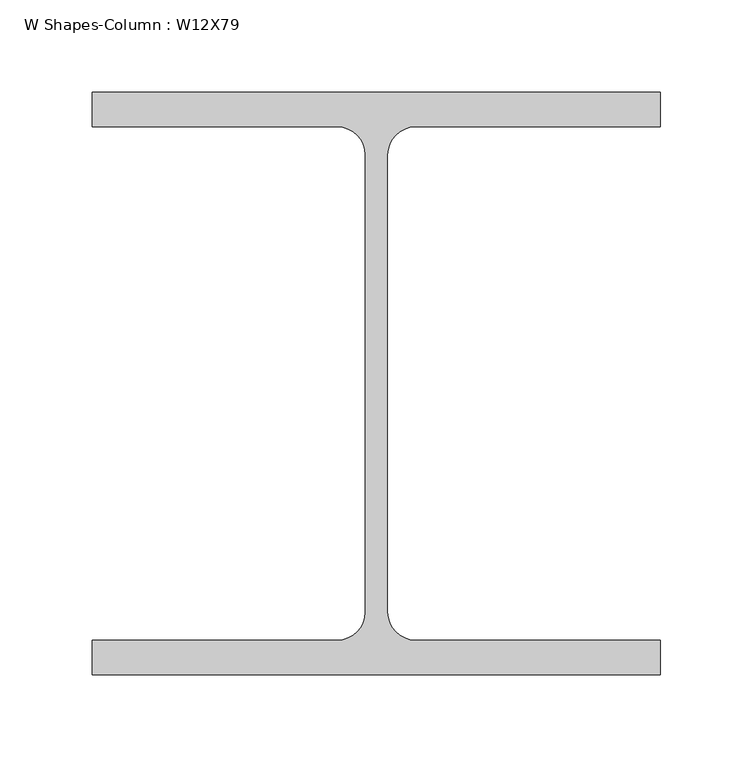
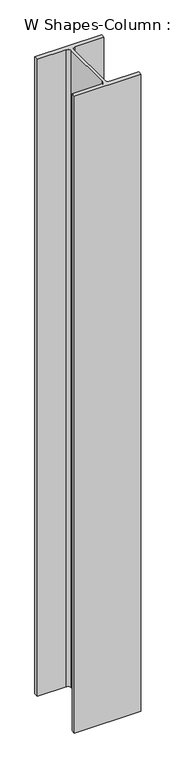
"""IFC4 building model written with IfcOpenShell, lengths in millimetres: column geometry, W Shapes-Column : W12X79."""

from ifc_helpers import new_model, si_unit, point, frame, frame_2d, origin, place, context, project, spatial, polyline, circle_curve, trimmed, segment, composite_curve, outline, extrude, source, transform, mapped, element, save


def w_shapes_column_w12x79_ed890722(model_context):
    return source(origin(), model_context, "Body", "SweptSolid", [
        extrude(outline(composite_curve([segment(polyline([(153.67, 157.48), (153.67, 138.811), (21.082, 138.811)]), True, "CONTINUOUS"), segment(trimmed(circle_curve(frame_2d((21.082, 123.698)), 15.113), [point((21.082, 138.811))], [point((5.969, 123.698))], True, "CARTESIAN"), True, "CONTINUOUS"), segment(polyline([(5.969, 123.698), (5.969, -123.698)]), True, "CONTINUOUS"), segment(trimmed(circle_curve(frame_2d((21.082, -123.698)), 15.113), [point((5.969, -123.698))], [point((21.082, -138.811))], True, "CARTESIAN"), True, "CONTINUOUS"), segment(polyline([(21.082, -138.811), (153.67, -138.811), (153.67, -157.48), (-153.67, -157.48), (-153.67, -138.811), (-21.082, -138.811)]), True, "CONTINUOUS"), segment(trimmed(circle_curve(frame_2d((-21.082, -123.698)), 15.113), [point((-21.082, -138.811))], [point((-5.969, -123.698))], True, "CARTESIAN"), True, "CONTINUOUS"), segment(polyline([(-5.969, -123.698), (-5.969, 123.698)]), True, "CONTINUOUS"), segment(trimmed(circle_curve(frame_2d((-21.082, 123.698)), 15.113), [point((-5.969, 123.698))], [point((-21.082, 138.811))], True, "CARTESIAN"), True, "CONTINUOUS"), segment(polyline([(-21.082, 138.811), (-153.67, 138.811), (-153.67, 157.48), (153.67, 157.48)]), True, "CONTINUOUS")], self_intersect=False)), frame((0.0, 0.0, 8595.0), z_axis=(0.0, 0.0, 1.0), x_axis=(1.0, 0.0, 0.0)), (0.0, 0.0, 1.0), 3105.0),
    ])


if __name__ == "__main__":
    model = new_model("IFC4")
    model_context = context("Model", 3, world=origin())
    ifc_project = project(units=[si_unit("LENGTHUNIT", "METRE", prefix="MILLI")], contexts=[model_context])
    site = spatial("IfcSite", under=ifc_project)
    building = spatial("IfcBuilding", under=site)
    placement = place(None, origin())
    w_shapes_column_w12x79_shape = w_shapes_column_w12x79_ed890722(model_context)
    element("IfcColumn", 1, ObjectType="W Shapes-Column : W12X79", at=placement, inside=building, context=model_context, shape_type="MappedRepresentation", body=[
        mapped(w_shapes_column_w12x79_shape, transform((0.0, 0.0, 0.0), x_axis=(1.0, 0.0, 0.0), y_axis=(0.0, 1.0, 0.0), z_axis=(0.0, 0.0, 1.0))),
    ])
    save(model, "model.ifc")
